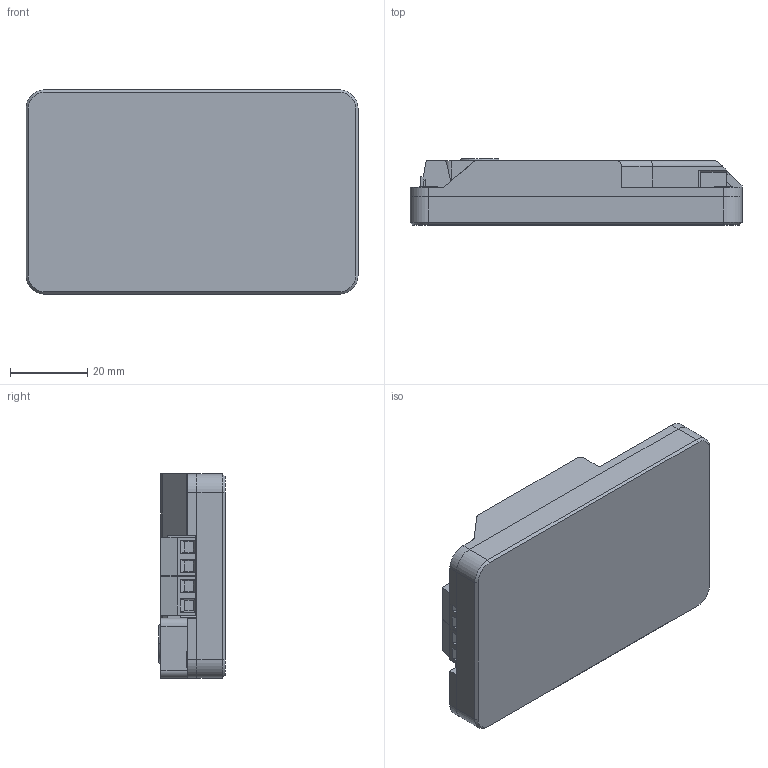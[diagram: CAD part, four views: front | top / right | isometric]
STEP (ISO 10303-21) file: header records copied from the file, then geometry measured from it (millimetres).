
FILE_DESCRIPTION (( 'STEP AP214' ), '1' );
FILE_NAME ('MD10-POT with Enclosure.STEP', '2018-12-14T09:16:10', ( '' ), ( '' ), 'SwSTEP 2.0', 'SolidWorks 2015', '' );
FILE_SCHEMA (( 'AUTOMOTIVE_DESIGN' ));
Length unit declared in the file: millimetre
Products named in the file (19): CHEMICON-J; SOT-89; S-CN-2022PR-03; LED-3216; TERMINAL-KF127-2P_Green; RES-2012; MD10-POT Case Bottom; SOIC-08N; CAP-2012; MD10-POT with Enclosure; SOT-23; SOD-123; MD10-POT PCBA asm; S-SP-4N-KAN3246; M3 Machine Screw_M3x06; MD10-POT PCB; MD10-POT Case Top; DPAK; TERMINAL-KF127-2P_Black
Assembly tree (95 placements, depth 3):
  MD10-POT with Enclosure
    MD10-POT PCBA asm
      MD10-POT PCB
      DPAK  x4
      LED-3216  x3
      TERMINAL-KF127-2P_Black
      TERMINAL-KF127-2P_Green
      RES-2012  x36
      SOD-123  x8
      CHEMICON-J
      SOIC-08N
      SOT-23  x21
      CAP-2012  x6
      SOT-89
      S-SP-4N-KAN3246  x2
      S-CN-2022PR-03  x2
    MD10-POT Case Bottom
    MD10-POT Case Top
    M3 Machine Screw_M3x06  x4
Bounding box: 85.78 x 17.1 x 52.76 mm (x, y, z)
Volume: 31590.2 mm3; surface area: 42095.3 mm2
Topology: 223 solids, 223 shells, 5287 faces, 13320 edges, 8448 vertices
Faces by surface type: plane 3559, cylinder 1517, bspline 147, cone 42, torus 22
Entity records: 94316 total; most frequent: CARTESIAN_POINT 16215, DIRECTION 13078, ORIENTED_EDGE 12588, EDGE_CURVE 6294, AXIS2_PLACEMENT_3D 4378, LINE 4322, VECTOR 4322, VERTEX_POINT 4118
